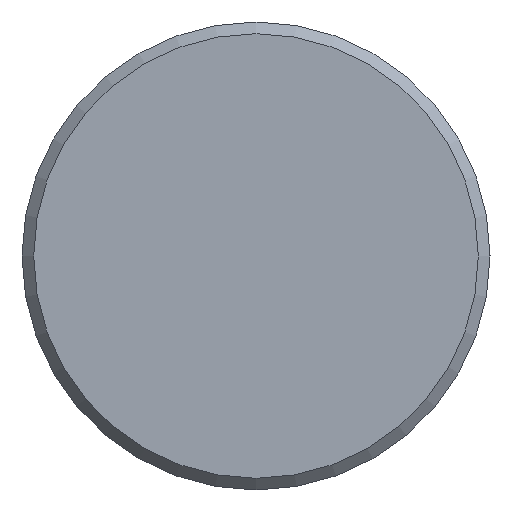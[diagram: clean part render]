
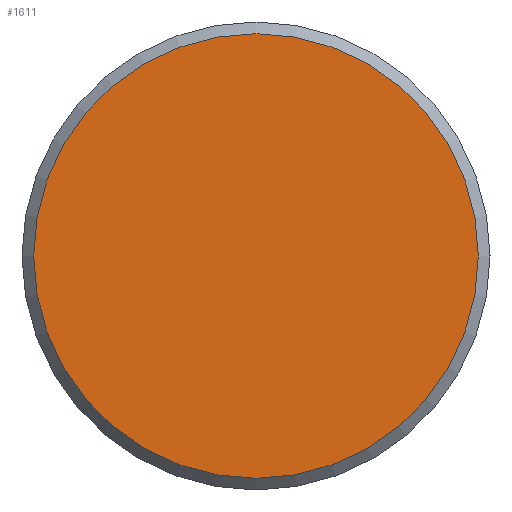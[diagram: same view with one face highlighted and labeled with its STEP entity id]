
A CAD part, left-side view. The second image highlights one B-rep face of the part: STEP entity #1611.
In plain terms, the highlighted planar face has unit normal (-1, 0, 0).
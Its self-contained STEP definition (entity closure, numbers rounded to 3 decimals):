
#573=PLANE('',#1481);
#614=ORIENTED_EDGE('',*,*,#818,.F.);
#712=CIRCLE('',#1480,9.5);
#765=VERTEX_POINT('',#1322);
#818=EDGE_CURVE('',#765,#765,#712,.T.);
#879=EDGE_LOOP('',(#614));
#985=FACE_BOUND('',#879,.T.);
#1106=DIRECTION('',(1.,0.,0.));
#1107=DIRECTION('',(0.,-9.5,0.));
#1108=DIRECTION('',(-1.,0.,0.));
#1109=DIRECTION('',(0.,1.,0.));
#1322=CARTESIAN_POINT('',(0.,-9.5,0.));
#1323=CARTESIAN_POINT('',(0.,0.,0.));
#1324=CARTESIAN_POINT('',(0.,0.,0.));
#1480=AXIS2_PLACEMENT_3D('',#1323,#1106,#1107);
#1481=AXIS2_PLACEMENT_3D('',#1324,#1108,#1109);
#1611=ADVANCED_FACE('',(#985),#573,.T.);
